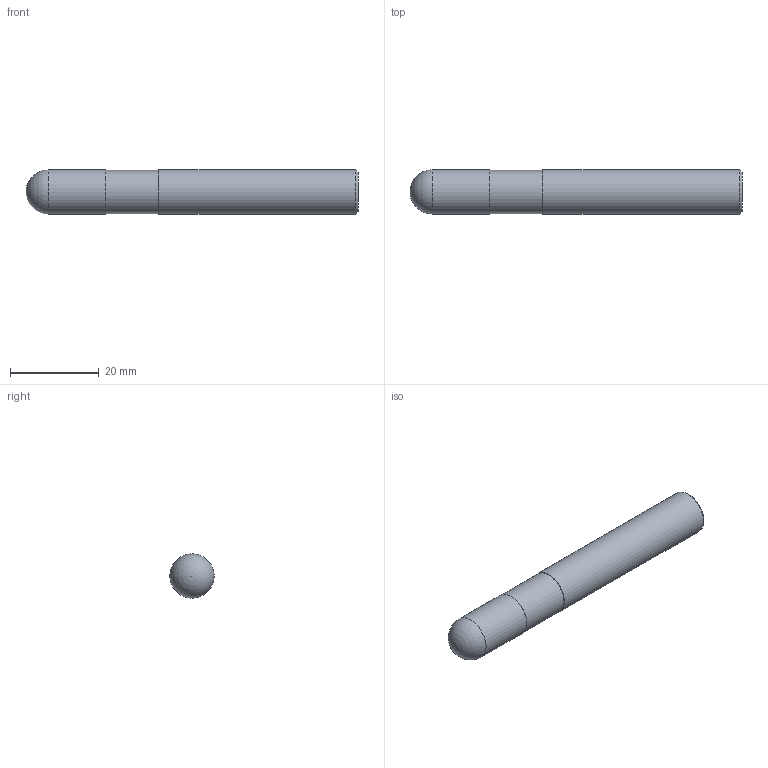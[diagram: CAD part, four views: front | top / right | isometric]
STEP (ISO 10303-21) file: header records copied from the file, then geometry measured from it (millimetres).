
FILE_DESCRIPTION(/* description */ (''),/* implementation_level */ '2;1');
FILE_NAME(/* name */ 'HSXBC4100 1075.stp',/* time_stamp */ '2026-01-27T10:31:27+08:00',/* author */ (''),/* organization */ (''),/* preprocessor_version */ 'ST-DEVELOPER v16',/* originating_system */ 'SIEMENS PLM Software NX 10.0',/* authorisation */ '');
FILE_SCHEMA (('CONFIG_CONTROL_DESIGN'));
Length unit declared in the file: millimetre
Products named in the file (1): HSXBC4100 1075_dxf
Bounding box: 75 x 10 x 10 mm (x, y, z)
Volume: 5718.5 mm3; surface area: 2423.9 mm2
Topology: 1 solids, 1 shells, 8 faces, 14 edges, 9 vertices
Faces by surface type: plane 3, cylinder 3, cone 1, sphere 1
Full cylindrical faces by diameter (mm): 9.8 x1, 10 x2
Entity records: 238 total; most frequent: DIRECTION 32, CARTESIAN_POINT 23, AXIS2_PLACEMENT_3D 16, EDGE_LOOP 14, ORIENTED_EDGE 14, FACE_BOUND 12, ADVANCED_FACE 8, PERSON_AND_ORGANIZATION 7
